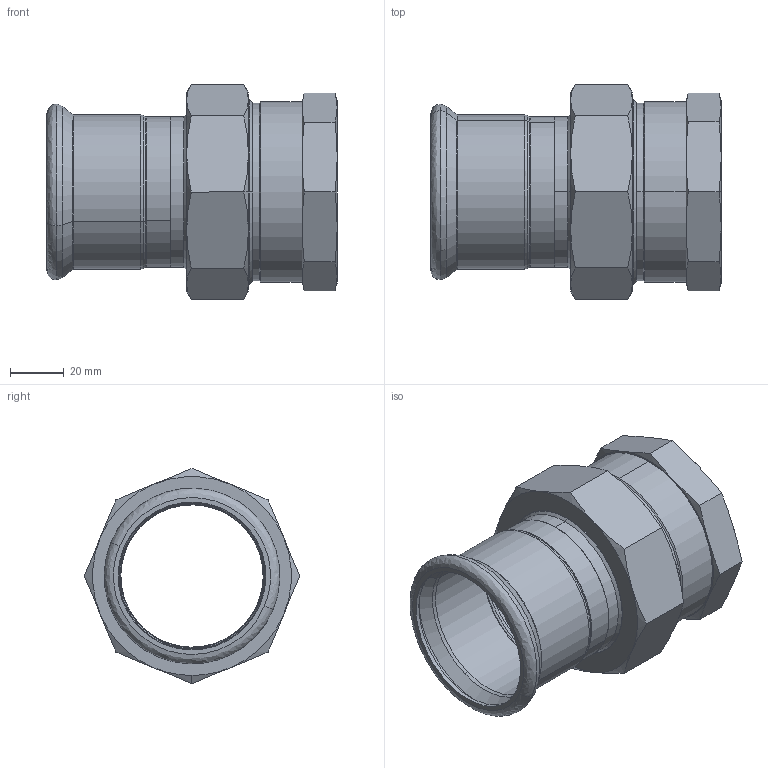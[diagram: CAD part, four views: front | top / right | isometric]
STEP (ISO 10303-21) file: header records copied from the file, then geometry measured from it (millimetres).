
FILE_DESCRIPTION (( 'STEP AP203' ), '1' );
FILE_NAME ('GDA5460.STEP', '2019-01-17T07:44:22', ( '' ), ( '' ), 'SwSTEP 2.0', 'SolidWorks 2015', '' );
FILE_SCHEMA (( 'CONFIG_CONTROL_DESIGN' ));
Length unit declared in the file: millimetre
Products named in the file (6): T-ｉ-01-54; 囀俋佪蛌遙諉芛2.4-2; ZL-Ⅰ-01×2八分之三; 2.375; 54×2八分之三; GDA5460
Assembly tree (5 placements, depth 2):
  GDA5460
    54×2八分之三
    T-ｉ-01-54
    ZL-Ⅰ-01×2八分之三
    囀俋佪蛌遙諉芛2.4-2
    2.375
Bounding box: 108 x 80.1 x 80.1 mm (x, y, z)
Volume: 108696.7 mm3; surface area: 63351.7 mm2
Topology: 5 solids, 5 shells, 147 faces, 320 edges, 189 vertices
Faces by surface type: cone 59, cylinder 36, plane 32, bspline 20
Entity records: 5289 total; most frequent: CARTESIAN_POINT 1516, DIRECTION 695, ORIENTED_EDGE 640, EDGE_CURVE 320, AXIS2_PLACEMENT_3D 308, VERTEX_POINT 189, CIRCLE 173, EDGE_LOOP 163
